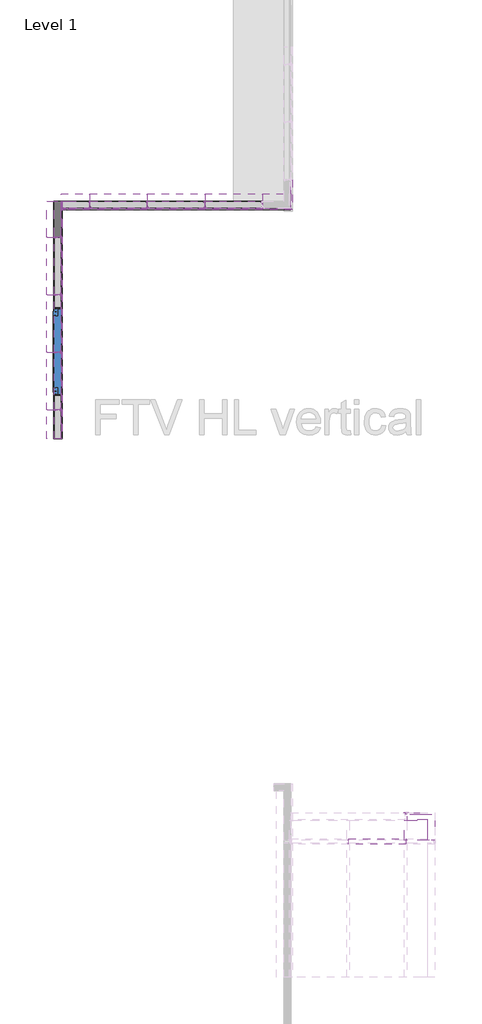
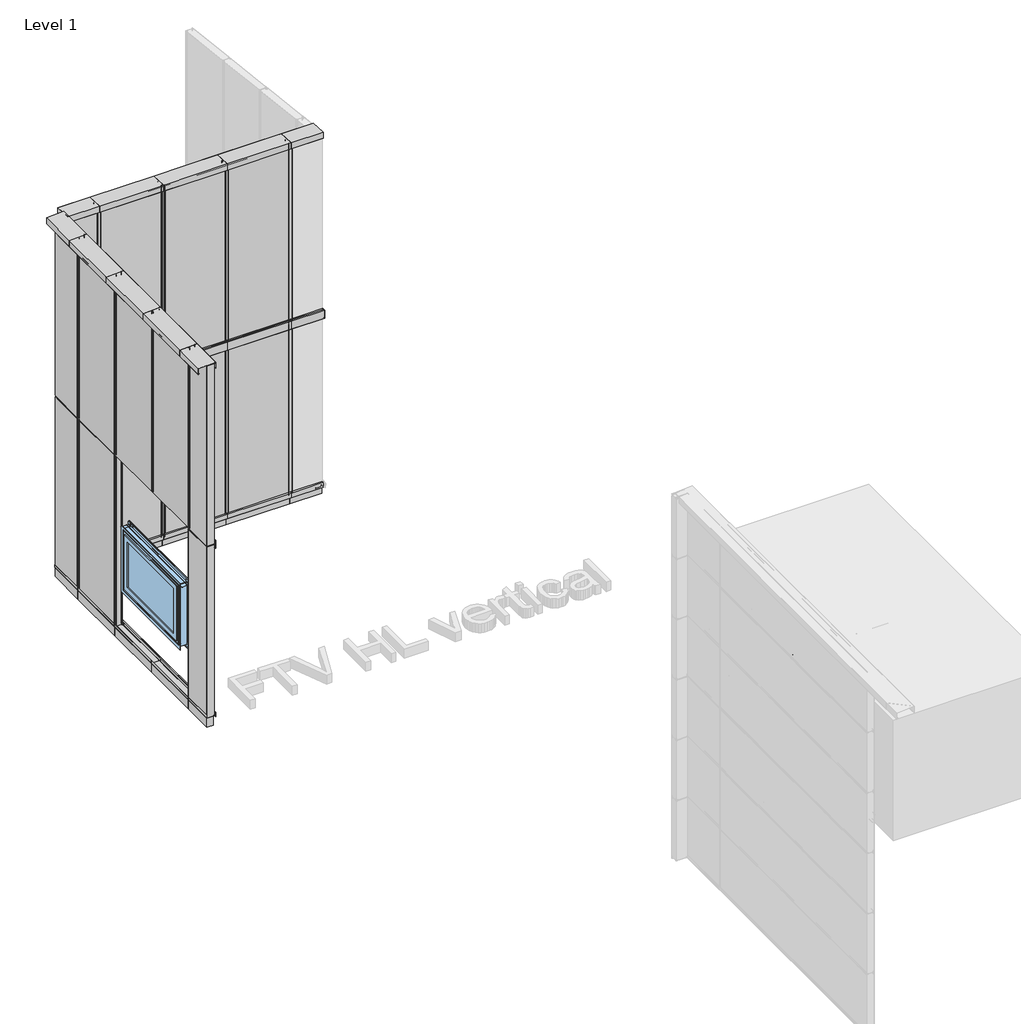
# One storey, part 2 of 12: 35 members, 19 plates, 1 window.
"""IFC4 building model written with IfcOpenShell, lengths in millimetres."""

from ifc_helpers import new_model, si_unit, frame, origin, place, context, project, spatial, polyline, outline, extrude, faceted_brep, transform, mapped, element, save
from components import rectangular_mullion_43938598, rectangular_mullion_ab42efd6, rectangular_mullion_1d9e89ed, rectangular_mullion_88eb2caa, rectangular_mullion_bb89daf4, rectangular_mullion_a47ee03b, rectangular_mullion_25a7a2da, rectangular_mullion_df936c78, rectangular_mullion_8045d9e8, rectangular_mullion_33361686, rectangular_mullion_f78c5b19, rectangular_mullion_6127d420, rectangular_mullion_b5ec325a, rectangular_mullion_2001938f, rectangular_mullion_f6077a82, rectangular_mullion_68cac8b4, rectangular_mullion_4b7977a3, rectangular_mullion_5a0b59be, plate_120_ral9006_ral9002_2db9554e, plate_120_ral9006_ral9002_1ee364b3, plate_120_ral9006_ral9002_da41a48f, plate_120_ral9006_ral9002_23705594, plate_120_ral9006_ral9002_6ff576de, plate_120_ral9006_ral9002_c20b192a, plate_120_ral9006_ral9002_8b50576c, plate_120_ral9006_ral9002_540726e8, plate_120_ral9006_ral9002_7ea08fae, plate_120_ral9006_ral9002_39290fb2, tr_empty_empty_7661b975

model = new_model("IFC4")

# Units and contexts
model_context = context("Model", 3, world=origin())
ifc_project = project(units=[si_unit("LENGTHUNIT", "METRE", prefix="MILLI")], contexts=[model_context])

# Site, building, storey
site = spatial("IfcSite", under=ifc_project)
building = spatial("IfcBuilding", under=site)
storey = spatial("IfcBuildingStorey", under=building, Name="Level 1", Elevation=0.0)

# Members
placement = place(None, origin())
rectangular_mullion_shape = rectangular_mullion_43938598(model_context)
element("IfcMember", 1, ObjectType="Rectangular Mullion : TI-V-01_02_Joint flashing", at=placement, inside=storey, context=model_context, shape_type="MappedRepresentation", body=[
    mapped(rectangular_mullion_shape, transform((-5494.115506, 3969.6069121, 3000.0), x_axis=(0.0, 0.0, 1.0), y_axis=(0.0, 1.0, 0.0), z_axis=(-1.0, 0.0, 0.0))),
])
element("IfcMember", 2, ObjectType="Rectangular Mullion : TI-V-01_02_Joint flashing", at=placement, inside=storey, context=model_context, shape_type="MappedRepresentation", body=[
    mapped(rectangular_mullion_shape, transform((-6494.115506, 3969.6069121, 3000.0), x_axis=(0.0, 0.0, 1.0), y_axis=(0.0, 1.0, 0.0), z_axis=(-1.0, 0.0, 0.0))),
])
element("IfcMember", 3, ObjectType="Rectangular Mullion : TI-V-01_02_Joint flashing", at=placement, inside=storey, context=model_context, shape_type="MappedRepresentation", body=[
    mapped(rectangular_mullion_shape, transform((-7494.115506, 3969.6069121, 3000.0), x_axis=(0.0, 0.0, 1.0), y_axis=(0.0, 1.0, 0.0), z_axis=(-1.0, 0.0, 0.0))),
])
element("IfcMember", 4, ObjectType="Rectangular Mullion : TI-V-01_02_Joint flashing", at=placement, inside=storey, context=model_context, shape_type="MappedRepresentation", body=[
    mapped(rectangular_mullion_shape, transform((-7994.1155057, 2469.6069124, 3000.0), x_axis=(0.0, 0.0, 1.0), y_axis=(-1.0, 0.0, 0.0), z_axis=(0.0, -1.0, 0.0))),
])
element("IfcMember", 5, ObjectType="Rectangular Mullion : TI-V-01_02_Joint flashing", at=placement, inside=storey, context=model_context, shape_type="MappedRepresentation", body=[
    mapped(rectangular_mullion_shape, transform((-7994.1155057, 1469.6069124, 3000.0), x_axis=(0.0, 0.0, 1.0), y_axis=(-1.0, 0.0, 0.0), z_axis=(0.0, -1.0, 0.0))),
])
element("IfcMember", 6, ObjectType="Rectangular Mullion : TI-V-01_02_Joint flashing", at=placement, inside=storey, context=model_context, shape_type="MappedRepresentation", body=[
    mapped(rectangular_mullion_shape, transform((-7994.1155057, 469.6069124, 3000.0), x_axis=(0.0, 0.0, 1.0), y_axis=(-1.0, 0.0, 0.0), z_axis=(0.0, -1.0, 0.0))),
])
rectangular_mullion_2_shape = rectangular_mullion_ab42efd6(model_context)
element("IfcMember", 7, ObjectType="Rectangular Mullion : TI-V-01_02_Joint flashing", at=placement, inside=storey, context=model_context, shape_type="MappedRepresentation", body=[
    mapped(rectangular_mullion_2_shape, transform((-7994.1155057, 3969.6069121, 3000.0), x_axis=(0.0, 0.0, 1.0), y_axis=(0.0, 1.0, 0.0), z_axis=(-1.0, 0.0, 0.0))),
])
rectangular_mullion_3_shape = rectangular_mullion_1d9e89ed(model_context)
element("IfcMember", 8, ObjectType="Rectangular Mullion : TI-V-01_02_Joint flashing", at=placement, inside=storey, context=model_context, shape_type="MappedRepresentation", body=[
    mapped(rectangular_mullion_3_shape, transform((-7994.1155057, 3469.6069124, 3000.0), x_axis=(0.0, 0.0, 1.0), y_axis=(-1.0, 0.0, 0.0), z_axis=(0.0, -1.0, 0.0))),
])
rectangular_mullion_4_shape = rectangular_mullion_88eb2caa(model_context)
element("IfcMember", 9, ObjectType="Rectangular Mullion : TI-V-01_02_Joint flashing", at=placement, inside=storey, context=model_context, shape_type="MappedRepresentation", body=[
    mapped(rectangular_mullion_4_shape, transform((-7994.1155057, -30.3930879, 3000.0), x_axis=(0.0, 0.0, 1.0), y_axis=(-1.0, 0.0, 0.0), z_axis=(0.0, -1.0, 0.0))),
])
rectangular_mullion_5_shape = rectangular_mullion_bb89daf4(model_context)
element("IfcMember", 10, ObjectType="Rectangular Mullion : TE-H-01_03_Joint HF102", at=placement, inside=storey, context=model_context, shape_type="MappedRepresentation", body=[
    mapped(rectangular_mullion_5_shape, transform((-1994.1155057, -6530.3930879, 4150.0), x_axis=(1.0, 0.0, 0.0), y_axis=(0.0, 1.0, 0.0), z_axis=(0.0, 0.0, 1.0))),
])
rectangular_mullion_6_shape = rectangular_mullion_a47ee03b(model_context)
element("IfcMember", 11, ObjectType="Rectangular Mullion : TE-H-01_03_Joint HF102", at=placement, inside=storey, context=model_context, shape_type="MappedRepresentation", body=[
    mapped(rectangular_mullion_6_shape, transform((-1994.1155057, -7030.3930879, 3650.0), x_axis=(0.0, -1.0, 0.0), y_axis=(0.0, 0.0, -1.0), z_axis=(1.0, 0.0, 0.0))),
])
rectangular_mullion_7_shape = rectangular_mullion_25a7a2da(model_context)
element("IfcMember", 12, ObjectType="Rectangular Mullion : TI-V-03_01_Top parapet", at=placement, inside=storey, context=model_context, shape_type="MappedRepresentation", body=[
    mapped(rectangular_mullion_7_shape, transform((-7994.1155057, 3969.6069121, 6000.0), x_axis=(0.0, 0.0, 1.0), y_axis=(0.0, 1.0, 0.0), z_axis=(-1.0, 0.0, 0.0))),
])
rectangular_mullion_8_shape = rectangular_mullion_df936c78(model_context)
element("IfcMember", 13, ObjectType="Rectangular Mullion : TI-V-03_01_Top parapet", at=placement, inside=storey, context=model_context, shape_type="MappedRepresentation", body=[
    mapped(rectangular_mullion_8_shape, transform((-4494.115506, 3969.6069121, 6000.0), x_axis=(0.0, 0.0, 1.0), y_axis=(0.0, 1.0, 0.0), z_axis=(-1.0, 0.0, 0.0))),
])
rectangular_mullion_9_shape = rectangular_mullion_8045d9e8(model_context)
element("IfcMember", 14, ObjectType="Rectangular Mullion : TI-V-03_01_Top parapet", at=placement, inside=storey, context=model_context, shape_type="MappedRepresentation", body=[
    mapped(rectangular_mullion_9_shape, transform((-5494.115506, 3969.6069121, 6000.0), x_axis=(0.0, 0.0, 1.0), y_axis=(0.0, 1.0, 0.0), z_axis=(-1.0, 0.0, 0.0))),
])
element("IfcMember", 15, ObjectType="Rectangular Mullion : TI-V-03_01_Top parapet", at=placement, inside=storey, context=model_context, shape_type="MappedRepresentation", body=[
    mapped(rectangular_mullion_9_shape, transform((-6494.115506, 3969.6069121, 6000.0), x_axis=(0.0, 0.0, 1.0), y_axis=(0.0, 1.0, 0.0), z_axis=(-1.0, 0.0, 0.0))),
])
element("IfcMember", 16, ObjectType="Rectangular Mullion : TI-V-03_01_Top parapet", at=placement, inside=storey, context=model_context, shape_type="MappedRepresentation", body=[
    mapped(rectangular_mullion_9_shape, transform((-7494.115506, 3969.6069121, 6000.0), x_axis=(0.0, 0.0, 1.0), y_axis=(0.0, 1.0, 0.0), z_axis=(-1.0, 0.0, 0.0))),
])
element("IfcMember", 17, ObjectType="Rectangular Mullion : TI-V-03_01_Top parapet", at=placement, inside=storey, context=model_context, shape_type="MappedRepresentation", body=[
    mapped(rectangular_mullion_9_shape, transform((-7994.1155057, 2469.6069124, 6000.0), x_axis=(0.0, 0.0, 1.0), y_axis=(-1.0, 0.0, 0.0), z_axis=(0.0, -1.0, 0.0))),
])
element("IfcMember", 18, ObjectType="Rectangular Mullion : TI-V-03_01_Top parapet", at=placement, inside=storey, context=model_context, shape_type="MappedRepresentation", body=[
    mapped(rectangular_mullion_9_shape, transform((-7994.1155057, 1469.6069124, 6000.0), x_axis=(0.0, 0.0, 1.0), y_axis=(-1.0, 0.0, 0.0), z_axis=(0.0, -1.0, 0.0))),
])
element("IfcMember", 19, ObjectType="Rectangular Mullion : TI-V-03_01_Top parapet", at=placement, inside=storey, context=model_context, shape_type="MappedRepresentation", body=[
    mapped(rectangular_mullion_9_shape, transform((-7994.1155057, 469.6069124, 6000.0), x_axis=(0.0, 0.0, 1.0), y_axis=(-1.0, 0.0, 0.0), z_axis=(0.0, -1.0, 0.0))),
])
rectangular_mullion_10_shape = rectangular_mullion_33361686(model_context)
element("IfcMember", 20, ObjectType="Rectangular Mullion : TI-V-02_01_Base detail i", at=placement, inside=storey, context=model_context, shape_type="MappedRepresentation", body=[
    mapped(rectangular_mullion_10_shape, transform((-3994.1155057, 3969.6069121, 0.0), x_axis=(0.0, 0.0, -1.0), y_axis=(0.0, 1.0, 0.0), z_axis=(1.0, 0.0, 0.0))),
])
rectangular_mullion_11_shape = rectangular_mullion_f78c5b19(model_context)
element("IfcMember", 21, ObjectType="Rectangular Mullion : TI-V-02_01_Base detail i", at=placement, inside=storey, context=model_context, shape_type="MappedRepresentation", body=[
    mapped(rectangular_mullion_11_shape, transform((-4494.115506, 3969.6069121, 0.0), x_axis=(0.0, 0.0, -1.0), y_axis=(0.0, 1.0, 0.0), z_axis=(1.0, 0.0, 0.0))),
])
element("IfcMember", 22, ObjectType="Rectangular Mullion : TI-V-02_01_Base detail i", at=placement, inside=storey, context=model_context, shape_type="MappedRepresentation", body=[
    mapped(rectangular_mullion_11_shape, transform((-5494.115506, 3969.6069121, 0.0), x_axis=(0.0, 0.0, -1.0), y_axis=(0.0, 1.0, 0.0), z_axis=(1.0, 0.0, 0.0))),
])
element("IfcMember", 23, ObjectType="Rectangular Mullion : TI-V-02_01_Base detail i", at=placement, inside=storey, context=model_context, shape_type="MappedRepresentation", body=[
    mapped(rectangular_mullion_11_shape, transform((-6494.115506, 3969.6069121, 0.0), x_axis=(0.0, 0.0, -1.0), y_axis=(0.0, 1.0, 0.0), z_axis=(1.0, 0.0, 0.0))),
])
element("IfcMember", 24, ObjectType="Rectangular Mullion : TI-V-02_01_Base detail i", at=placement, inside=storey, context=model_context, shape_type="MappedRepresentation", body=[
    mapped(rectangular_mullion_11_shape, transform((-7994.1155057, 3469.6069124, 0.0), x_axis=(0.0, 0.0, -1.0), y_axis=(-1.0, 0.0, 0.0), z_axis=(0.0, 1.0, 0.0))),
])
element("IfcMember", 25, ObjectType="Rectangular Mullion : TI-V-02_01_Base detail i", at=placement, inside=storey, context=model_context, shape_type="MappedRepresentation", body=[
    mapped(rectangular_mullion_11_shape, transform((-7994.1155057, 2469.6069124, 0.0), x_axis=(0.0, 0.0, -1.0), y_axis=(-1.0, 0.0, 0.0), z_axis=(0.0, 1.0, 0.0))),
])
element("IfcMember", 26, ObjectType="Rectangular Mullion : TI-V-02_01_Base detail i", at=placement, inside=storey, context=model_context, shape_type="MappedRepresentation", body=[
    mapped(rectangular_mullion_11_shape, transform((-7994.1155057, 1469.6069124, 0.0), x_axis=(0.0, 0.0, -1.0), y_axis=(-1.0, 0.0, 0.0), z_axis=(0.0, 1.0, 0.0))),
])
rectangular_mullion_12_shape = rectangular_mullion_6127d420(model_context)
element("IfcMember", 27, ObjectType="Rectangular Mullion : TI-V-02_01_Base detail i", at=placement, inside=storey, context=model_context, shape_type="MappedRepresentation", body=[
    mapped(rectangular_mullion_12_shape, transform((-7494.115506, 3969.6069121, 0.0), x_axis=(0.0, 0.0, -1.0), y_axis=(0.0, 1.0, 0.0), z_axis=(1.0, 0.0, 0.0))),
])
element("IfcMember", 28, ObjectType="Rectangular Mullion : TI-V-03_01_Top parapet", at=placement, inside=storey, context=model_context, shape_type="MappedRepresentation", body=[
    mapped(rectangular_mullion_8_shape, transform((-7994.1155057, -30.3930879, 6000.0), x_axis=(0.0, 0.0, 1.0), y_axis=(-1.0, 0.0, 0.0), z_axis=(0.0, -1.0, 0.0))),
])
rectangular_mullion_13_shape = rectangular_mullion_b5ec325a(model_context)
element("IfcMember", 29, ObjectType="Rectangular Mullion : TI-V-03_01_Top parapet", at=placement, inside=storey, context=model_context, shape_type="MappedRepresentation", body=[
    mapped(rectangular_mullion_13_shape, transform((-7994.1155057, 3469.6069124, 6000.0), x_axis=(0.0, 0.0, 1.0), y_axis=(-1.0, 0.0, 0.0), z_axis=(0.0, -1.0, 0.0))),
])
rectangular_mullion_14_shape = rectangular_mullion_2001938f(model_context)
element("IfcMember", 30, ObjectType="Rectangular Mullion : TI-V-02_01_Base detail i", at=placement, inside=storey, context=model_context, shape_type="MappedRepresentation", body=[
    mapped(rectangular_mullion_14_shape, transform((-7994.1155057, 4089.6069121, 0.0), x_axis=(0.0, 0.0, -1.0), y_axis=(-1.0, 0.0, 0.0), z_axis=(0.0, 1.0, 0.0))),
])
element("IfcMember", 31, ObjectType="Rectangular Mullion : TI-V-02_01_Base detail i", at=placement, inside=storey, context=model_context, shape_type="MappedRepresentation", body=[
    mapped(rectangular_mullion_10_shape, transform((-7994.1155057, 469.6069124, 0.0), x_axis=(0.0, 0.0, -1.0), y_axis=(-1.0, 0.0, 0.0), z_axis=(0.0, 1.0, 0.0))),
])
rectangular_mullion_15_shape = rectangular_mullion_f6077a82(model_context)
element("IfcMember", 32, ObjectType="Rectangular Mullion : TI-V-05_01_Internal corner i L", at=placement, inside=storey, context=model_context, shape_type="MappedRepresentation", body=[
    mapped(rectangular_mullion_15_shape, transform((-7994.1155057, 3969.6069121, 206.6383068), x_axis=(-1.0, 0.0, 0.0), y_axis=(0.0, 1.0, 0.0), z_axis=(0.0, 0.0, -1.0))),
])
rectangular_mullion_16_shape = rectangular_mullion_68cac8b4(model_context)
element("IfcMember", 33, ObjectType="Rectangular Mullion : TI-V-05_01_Internal corner i L", at=placement, inside=storey, context=model_context, shape_type="MappedRepresentation", body=[
    mapped(rectangular_mullion_16_shape, transform((-7994.1155057, 3969.6069121, 3070.1186468), x_axis=(-1.0, 0.0, 0.0), y_axis=(0.0, 1.0, 0.0), z_axis=(0.0, 0.0, -1.0))),
])
rectangular_mullion_17_shape = rectangular_mullion_4b7977a3(model_context)
element("IfcMember", 34, ObjectType="Rectangular Mullion : TI-V-01_02_Joint flashing", at=placement, inside=storey, context=model_context, shape_type="MappedRepresentation", body=[
    mapped(rectangular_mullion_17_shape, transform((-3994.1155057, 3969.6069121, 3000.0), x_axis=(0.0, 0.0, 1.0), y_axis=(-1.0, 0.0, 0.0), z_axis=(0.0, -1.0, 0.0))),
])
rectangular_mullion_18_shape = rectangular_mullion_5a0b59be(model_context)
element("IfcMember", 35, ObjectType="Rectangular Mullion : TI-V-01_02_Joint flashing", at=placement, inside=storey, context=model_context, shape_type="MappedRepresentation", body=[
    mapped(rectangular_mullion_18_shape, transform((-4494.115506, 3969.6069121, 3000.0), x_axis=(0.0, 0.0, 1.0), y_axis=(0.0, 1.0, 0.0), z_axis=(-1.0, 0.0, 0.0))),
])

# Plates
plate_120_ral9006_ral9002_shape = plate_120_ral9006_ral9002_2db9554e(model_context)
element("IfcPlate", 36, ObjectType="TR_C_H_FHL_Panel_cut_GROOVE : 120/RAL9006/RAL9002", at=placement, inside=storey, context=model_context, shape_type="MappedRepresentation", body=[
    mapped(plate_120_ral9006_ral9002_shape, transform((-1994.1155057, -6770.3930879, 3650.0), x_axis=(0.0, -1.0, 0.0), y_axis=(0.0, 0.0, -1.0), z_axis=(1.0, 0.0, 0.0))),
])
plate_120_ral9006_ral9002_2_shape = plate_120_ral9006_ral9002_1ee364b3(model_context)
element("IfcPlate", 37, ObjectType="TR_C_V_FHL_Panel : 120/RAL9006/RAL9002", at=placement, inside=storey, context=model_context, shape_type="MappedRepresentation", body=[
    mapped(plate_120_ral9006_ral9002_2_shape, transform((-4994.115506, 3969.6069121, 150.0), x_axis=(-1.0, 0.0, 0.0), y_axis=(0.0, -1.0, 0.0), z_axis=(0.0, 0.0, 1.0))),
])
element("IfcPlate", 38, ObjectType="TR_C_V_FHL_Panel : 120/RAL9006/RAL9002", at=placement, inside=storey, context=model_context, shape_type="MappedRepresentation", body=[
    mapped(plate_120_ral9006_ral9002_2_shape, transform((-5994.115506, 3969.6069121, 150.0), x_axis=(-1.0, 0.0, 0.0), y_axis=(0.0, -1.0, 0.0), z_axis=(0.0, 0.0, 1.0))),
])
element("IfcPlate", 39, ObjectType="TR_C_V_FHL_Panel : 120/RAL9006/RAL9002", at=placement, inside=storey, context=model_context, shape_type="MappedRepresentation", body=[
    mapped(plate_120_ral9006_ral9002_2_shape, transform((-6994.115506, 3969.6069121, 150.0), x_axis=(-1.0, 0.0, 0.0), y_axis=(0.0, -1.0, 0.0), z_axis=(0.0, 0.0, 1.0))),
])
element("IfcPlate", 40, ObjectType="TR_C_V_FHL_Panel : 120/RAL9006/RAL9002", at=placement, inside=storey, context=model_context, shape_type="MappedRepresentation", body=[
    mapped(plate_120_ral9006_ral9002_2_shape, transform((-7994.1155057, 2969.6069124, 150.0), x_axis=(0.0, -1.0, 0.0), y_axis=(1.0, 0.0, 0.0), z_axis=(0.0, 0.0, 1.0))),
])
plate_120_ral9006_ral9002_3_shape = plate_120_ral9006_ral9002_da41a48f(model_context)
element("IfcPlate", 41, ObjectType="TR_C_V_FHL_Panel : 120/RAL9006/RAL9002", at=placement, inside=storey, context=model_context, shape_type="MappedRepresentation", body=[
    mapped(plate_120_ral9006_ral9002_3_shape, transform((-4994.115506, 3969.6069121, 3000.0), x_axis=(-1.0, 0.0, 0.0), y_axis=(0.0, -1.0, 0.0), z_axis=(0.0, 0.0, 1.0))),
])
element("IfcPlate", 42, ObjectType="TR_C_V_FHL_Panel : 120/RAL9006/RAL9002", at=placement, inside=storey, context=model_context, shape_type="MappedRepresentation", body=[
    mapped(plate_120_ral9006_ral9002_3_shape, transform((-5994.115506, 3969.6069121, 3000.0), x_axis=(-1.0, 0.0, 0.0), y_axis=(0.0, -1.0, 0.0), z_axis=(0.0, 0.0, 1.0))),
])
element("IfcPlate", 43, ObjectType="TR_C_V_FHL_Panel : 120/RAL9006/RAL9002", at=placement, inside=storey, context=model_context, shape_type="MappedRepresentation", body=[
    mapped(plate_120_ral9006_ral9002_3_shape, transform((-6994.115506, 3969.6069121, 3000.0), x_axis=(-1.0, 0.0, 0.0), y_axis=(0.0, -1.0, 0.0), z_axis=(0.0, 0.0, 1.0))),
])
element("IfcPlate", 44, ObjectType="TR_C_V_FHL_Panel : 120/RAL9006/RAL9002", at=placement, inside=storey, context=model_context, shape_type="MappedRepresentation", body=[
    mapped(plate_120_ral9006_ral9002_3_shape, transform((-7994.1155057, 2969.6069124, 3000.0), x_axis=(0.0, -1.0, 0.0), y_axis=(1.0, 0.0, 0.0), z_axis=(0.0, 0.0, 1.0))),
])
element("IfcPlate", 45, ObjectType="TR_C_V_FHL_Panel : 120/RAL9006/RAL9002", at=placement, inside=storey, context=model_context, shape_type="MappedRepresentation", body=[
    mapped(plate_120_ral9006_ral9002_3_shape, transform((-7994.1155057, 1969.6069124, 3000.0), x_axis=(0.0, -1.0, 0.0), y_axis=(1.0, 0.0, 0.0), z_axis=(0.0, 0.0, 1.0))),
])
element("IfcPlate", 46, ObjectType="TR_C_V_FHL_Panel : 120/RAL9006/RAL9002", at=placement, inside=storey, context=model_context, shape_type="MappedRepresentation", body=[
    mapped(plate_120_ral9006_ral9002_3_shape, transform((-7994.1155057, 969.6069124, 3000.0), x_axis=(0.0, -1.0, 0.0), y_axis=(1.0, 0.0, 0.0), z_axis=(0.0, 0.0, 1.0))),
])
plate_120_ral9006_ral9002_4_shape = plate_120_ral9006_ral9002_23705594(model_context)
element("IfcPlate", 47, ObjectType="TR_C_V_FHL_Panel_cut_GROOVE : 120/RAL9006/RAL9002", at=placement, inside=storey, context=model_context, shape_type="MappedRepresentation", body=[
    mapped(plate_120_ral9006_ral9002_4_shape, transform((-7994.1155057, 219.6069123, 150.0), x_axis=(0.0, -1.0, 0.0), y_axis=(1.0, 0.0, 0.0), z_axis=(0.0, 0.0, 1.0))),
])
plate_120_ral9006_ral9002_5_shape = plate_120_ral9006_ral9002_6ff576de(model_context)
element("IfcPlate", 48, ObjectType="TR_C_V_FHL_Panel_cut_GROOVE : 120/RAL9006/RAL9002", at=placement, inside=storey, context=model_context, shape_type="MappedRepresentation", body=[
    mapped(plate_120_ral9006_ral9002_5_shape, transform((-7734.5155058, 3969.6069121, 150.0), x_axis=(-1.0, 0.0, 0.0), y_axis=(0.0, -1.0, 0.0), z_axis=(0.0, 0.0, 1.0))),
])
plate_120_ral9006_ral9002_6_shape = plate_120_ral9006_ral9002_c20b192a(model_context)
element("IfcPlate", 49, ObjectType="TR_C_V_FHL_Panel_cut_GROOVE : 120/RAL9006/RAL9002", at=placement, inside=storey, context=model_context, shape_type="MappedRepresentation", body=[
    mapped(plate_120_ral9006_ral9002_6_shape, transform((-7734.5155058, 3969.6069121, 3000.0), x_axis=(-1.0, 0.0, 0.0), y_axis=(0.0, -1.0, 0.0), z_axis=(0.0, 0.0, 1.0))),
])
plate_120_ral9006_ral9002_7_shape = plate_120_ral9006_ral9002_8b50576c(model_context)
element("IfcPlate", 50, ObjectType="TR_C_V_FHL_Panel_cut_GROOVE : 120/RAL9006/RAL9002", at=placement, inside=storey, context=model_context, shape_type="MappedRepresentation", body=[
    mapped(plate_120_ral9006_ral9002_7_shape, transform((-7994.1155057, 219.6069123, 3000.0), x_axis=(0.0, -1.0, 0.0), y_axis=(1.0, 0.0, 0.0), z_axis=(0.0, 0.0, 1.0))),
])
plate_120_ral9006_ral9002_8_shape = plate_120_ral9006_ral9002_540726e8(model_context)
element("IfcPlate", 51, ObjectType="TR_C_V_FHL_Panel_cut_TONGUE : 120/RAL9006/RAL9002", at=placement, inside=storey, context=model_context, shape_type="MappedRepresentation", body=[
    mapped(plate_120_ral9006_ral9002_8_shape, transform((-7994.1155057, 3779.6069123, 150.0), x_axis=(0.0, -1.0, 0.0), y_axis=(1.0, 0.0, 0.0), z_axis=(0.0, 0.0, 1.0))),
])
plate_120_ral9006_ral9002_9_shape = plate_120_ral9006_ral9002_7ea08fae(model_context)
element("IfcPlate", 52, ObjectType="TR_C_V_FHL_Panel_cut_TONGUE : 120/RAL9006/RAL9002", at=placement, inside=storey, context=model_context, shape_type="MappedRepresentation", body=[
    mapped(plate_120_ral9006_ral9002_9_shape, transform((-7994.1155057, 3779.6069123, 3000.0), x_axis=(0.0, -1.0, 0.0), y_axis=(1.0, 0.0, 0.0), z_axis=(0.0, 0.0, 1.0))),
])
plate_120_ral9006_ral9002_10_shape = plate_120_ral9006_ral9002_39290fb2(model_context)
element("IfcPlate", 53, ObjectType="TR_C_H_FHL_Corner_Tr_B_cut_TONGUE : 120/RAL9006/RAL9002", at=placement, inside=storey, context=model_context, shape_type="MappedRepresentation", body=[
    mapped(plate_120_ral9006_ral9002_10_shape, transform((-1494.1155057, -6770.3930879, 3650.0), x_axis=(0.0, -1.0, 0.0), y_axis=(1.0, 0.0, 0.0), z_axis=(0.0, 0.0, 1.0))),
])
tr_empty_empty_shape = tr_empty_empty_7661b975(model_context)
element("IfcPlate", 54, ObjectType="TR_EMPTY : EMPTY", at=placement, inside=storey, context=model_context, shape_type="MappedRepresentation", body=[
    mapped(tr_empty_empty_shape, transform((-1734.1155057, -6530.3930879, 3650.0), x_axis=(1.0, 0.0, 0.0), y_axis=(0.0, 1.0, 0.0), z_axis=(0.0, 0.0, 1.0))),
])

# Window
element("IfcWindow", 55, ObjectType="TE-V-06_01_Window cut i : Window", at=placement, inside=storey, context=model_context, shape_type="SolidModel", body=[
    faceted_brep([(-8071.1155057, 2145.8090139, 1816.2021017), (-8054.1155057, 2145.8090139, 1816.2021017), (-8054.1155057, 2145.8090139, 983.7978983), (-8071.1155057, 2145.8090139, 983.7978983), (-8054.1155057, 2154.1069121, 1824.5), (-8071.1155057, 2154.1069121, 1824.5), (-8071.1155057, 2154.1069121, 975.5), (-8054.1155057, 2154.1069121, 975.5), (-8057.9155057, 2222.1069121, 1892.5), (-8054.1155057, 2222.1069121, 1892.5), (-8054.1155057, 2222.1069121, 907.5), (-8057.9155057, 2222.1069121, 907.5), (-8061.9155057, 2214.1069121, 1884.5), (-8057.9155057, 2214.1069121, 1884.5), (-8057.9155057, 2214.1069121, 915.5), (-8061.9155057, 2214.1069121, 915.5), (-8066.2155057, 2222.1069121, 1892.5), (-8061.9155057, 2222.1069121, 1892.5), (-8061.9155057, 2222.1069121, 907.5), (-8066.2155057, 2222.1069121, 907.5), (-8102.0155057, 2214.1069121, 1884.5), (-8066.2155057, 2214.1069121, 1884.5), (-8066.2155057, 2214.1069121, 915.5), (-8102.0155057, 2214.1069121, 915.5), (-8106.3155057, 2222.1069121, 1892.5), (-8102.0155057, 2222.1069121, 1892.5), (-8102.0155057, 2222.1069121, 907.5), (-8106.3155057, 2222.1069121, 907.5), (-8110.3155057, 2214.1069121, 1884.5), (-8106.3155057, 2214.1069121, 1884.5), (-8106.3155057, 2214.1069121, 915.5), (-8110.3155057, 2214.1069121, 915.5), (-8114.1155057, 2222.1069121, 1892.5), (-8110.3155057, 2222.1069121, 1892.5), (-8110.3155057, 2222.1069121, 907.5), (-8114.1155057, 2222.1069121, 907.5), (-8102.9155057, 2174.1069121, 1844.5), (-8114.1155057, 2174.1069121, 1844.5), (-8114.1155057, 2174.1069121, 955.5), (-8102.9155057, 2174.1069121, 955.5), (-8066.6155057, 2179.9196805, 1850.3127684), (-8102.9155057, 2179.9196805, 1850.3127684), (-8102.9155057, 2179.9196805, 949.6872316), (-8066.6155057, 2179.9196805, 949.6872316), (-8118.6155057, 2162.1069121, 1832.5), (-8066.6155057, 2162.1069121, 1832.5), (-8066.6155057, 2162.1069121, 967.5), (-8118.6155057, 2162.1069121, 967.5), (-8114.8743992, 2179.9196805, 1850.3127684), (-8118.6155057, 2179.9196805, 1850.3127684), (-8118.6155057, 2179.9196805, 949.6872316), (-8114.8743992, 2179.9196805, 949.6872316), (-8128.6155057, 2182.1069121, 1852.5), (-8114.8743992, 2182.1069121, 1852.5), (-8114.8743992, 2182.1069121, 947.5), (-8128.6155057, 2182.1069121, 947.5), (-8109.1153764, 2102.1069121, 1772.5), (-8128.6155057, 2102.1069121, 1772.5), (-8128.6155057, 2102.1069121, 1027.5), (-8109.1153764, 2102.1069121, 1027.5), (-8089.1153853, 2117.0921681, 1787.485256), (-8109.1153764, 2117.0921681, 1787.485256), (-8109.1153764, 2117.0921681, 1012.514744), (-8089.1153853, 2117.0921681, 1012.514744), (-8054.1155057, 2102.1069121, 1772.5), (-8089.1153853, 2102.1069121, 1772.5), (-8089.1153853, 2102.1069121, 1027.5), (-8054.1155057, 2102.1069121, 1027.5), (-8054.1155057, 813.4048104, 983.7978983), (-8071.1155057, 813.4048104, 983.7978983), (-8071.1155057, 805.1069121, 975.5), (-8054.1155057, 805.1069121, 975.5), (-8054.1155057, 737.1069121, 907.5), (-8057.9155057, 737.1069121, 907.5), (-8057.9155057, 745.1069121, 915.5), (-8061.9155057, 745.1069121, 915.5), (-8061.9155057, 737.1069121, 907.5), (-8066.2155057, 737.1069121, 907.5), (-8066.2155057, 745.1069121, 915.5), (-8102.0155057, 745.1069121, 915.5), (-8102.0155057, 737.1069121, 907.5), (-8106.3155057, 737.1069121, 907.5), (-8106.3155057, 745.1069121, 915.5), (-8110.3155057, 745.1069121, 915.5), (-8110.3155057, 737.1069121, 907.5), (-8114.1155057, 737.1069121, 907.5), (-8114.1155057, 785.1069121, 955.5), (-8102.9155057, 785.1069121, 955.5), (-8102.9155057, 779.2941438, 949.6872316), (-8066.6155057, 779.2941438, 949.6872316), (-8066.6155057, 797.1069121, 967.5), (-8118.6155057, 797.1069121, 967.5), (-8118.6155057, 779.2941438, 949.6872316), (-8114.8743992, 779.2941438, 949.6872316), (-8114.8743992, 777.1069121, 947.5), (-8128.6155057, 777.1069121, 947.5), (-8128.6155057, 857.1069121, 1027.5), (-8109.1153764, 857.1069121, 1027.5), (-8109.1153764, 842.1216561, 1012.514744), (-8089.1153853, 842.1216561, 1012.514744), (-8089.1153853, 857.1069121, 1027.5), (-8054.1155057, 857.1069121, 1027.5), (-8054.1155057, 813.4048104, 1816.2021017), (-8071.1155057, 813.4048104, 1816.2021017), (-8071.1155057, 805.1069121, 1824.5), (-8054.1155057, 805.1069121, 1824.5), (-8054.1155057, 737.1069121, 1892.5), (-8057.9155057, 737.1069121, 1892.5), (-8057.9155057, 745.1069121, 1884.5), (-8061.9155057, 745.1069121, 1884.5), (-8061.9155057, 737.1069121, 1892.5), (-8066.2155057, 737.1069121, 1892.5), (-8066.2155057, 745.1069121, 1884.5), (-8102.0155057, 745.1069121, 1884.5), (-8102.0155057, 737.1069121, 1892.5), (-8106.3155057, 737.1069121, 1892.5), (-8106.3155057, 745.1069121, 1884.5), (-8110.3155057, 745.1069121, 1884.5), (-8110.3155057, 737.1069121, 1892.5), (-8114.1155057, 737.1069121, 1892.5), (-8114.1155057, 785.1069121, 1844.5), (-8102.9155057, 785.1069121, 1844.5), (-8102.9155057, 779.2941438, 1850.3127684), (-8066.6155057, 779.2941438, 1850.3127684), (-8066.6155057, 797.1069121, 1832.5), (-8118.6155057, 797.1069121, 1832.5), (-8118.6155057, 779.2941438, 1850.3127684), (-8114.8743992, 779.2941438, 1850.3127684), (-8114.8743992, 777.1069121, 1852.5), (-8128.6155057, 777.1069121, 1852.5), (-8128.6155057, 857.1069121, 1772.5), (-8109.1153764, 857.1069121, 1772.5), (-8109.1153764, 842.1216561, 1787.485256), (-8089.1153853, 842.1216561, 1787.485256), (-8089.1153853, 857.1069121, 1772.5), (-8054.1155057, 857.1069121, 1772.5)], [[[0, 1, 2, 3]], [[4, 5, 6, 7]], [[8, 9, 10, 11]], [[12, 13, 14, 15]], [[16, 17, 18, 19]], [[20, 21, 22, 23]], [[24, 25, 26, 27]], [[28, 29, 30, 31]], [[32, 33, 34, 35]], [[36, 37, 38, 39]], [[40, 41, 42, 43]], [[44, 45, 46, 47]], [[48, 49, 50, 51]], [[52, 53, 54, 55]], [[56, 57, 58, 59]], [[60, 61, 62, 63]], [[64, 65, 66, 67]], [[3, 2, 68, 69]], [[7, 6, 70, 71]], [[11, 10, 72, 73]], [[15, 14, 74, 75]], [[19, 18, 76, 77]], [[23, 22, 78, 79]], [[27, 26, 80, 81]], [[31, 30, 82, 83]], [[35, 34, 84, 85]], [[39, 38, 86, 87]], [[43, 42, 88, 89]], [[47, 46, 90, 91]], [[51, 50, 92, 93]], [[55, 54, 94, 95]], [[59, 58, 96, 97]], [[63, 62, 98, 99]], [[67, 66, 100, 101]], [[69, 68, 102, 103]], [[71, 70, 104, 105]], [[73, 72, 106, 107]], [[75, 74, 108, 109]], [[77, 76, 110, 111]], [[79, 78, 112, 113]], [[81, 80, 114, 115]], [[83, 82, 116, 117]], [[85, 84, 118, 119]], [[87, 86, 120, 121]], [[89, 88, 122, 123]], [[91, 90, 124, 125]], [[93, 92, 126, 127]], [[95, 94, 128, 129]], [[97, 96, 130, 131]], [[99, 98, 132, 133]], [[101, 100, 134, 135]], [[103, 102, 1, 0]], [[5, 104, 70, 6], [3, 69, 103, 0]], [[105, 104, 5, 4]], [[9, 106, 72, 10], [7, 71, 105, 4]], [[107, 106, 9, 8]], [[11, 73, 107, 8], [13, 108, 74, 14]], [[109, 108, 13, 12]], [[17, 110, 76, 18], [15, 75, 109, 12]], [[111, 110, 17, 16]], [[19, 77, 111, 16], [21, 112, 78, 22]], [[113, 112, 21, 20]], [[25, 114, 80, 26], [23, 79, 113, 20]], [[115, 114, 25, 24]], [[27, 81, 115, 24], [29, 116, 82, 30]], [[117, 116, 29, 28]], [[33, 118, 84, 34], [31, 83, 117, 28]], [[119, 118, 33, 32]], [[35, 85, 119, 32], [37, 120, 86, 38]], [[121, 120, 37, 36]], [[41, 122, 88, 42], [39, 87, 121, 36]], [[123, 122, 41, 40]], [[43, 89, 123, 40], [45, 124, 90, 46]], [[125, 124, 45, 44]], [[49, 126, 92, 50], [47, 91, 125, 44]], [[127, 126, 49, 48]], [[53, 128, 94, 54], [51, 93, 127, 48]], [[129, 128, 53, 52]], [[55, 95, 129, 52], [57, 130, 96, 58]], [[131, 130, 57, 56]], [[61, 132, 98, 62], [59, 97, 131, 56]], [[133, 132, 61, 60]], [[63, 99, 133, 60], [65, 134, 100, 66]], [[135, 134, 65, 64]], [[1, 102, 68, 2], [67, 101, 135, 64]]]),
    extrude(outline(polyline([(1953.6994161, -7975.668523), (1954.4721568, -7975.4614678), (1959.027372, -7992.4617623), (1960.186483, -7992.1511795), (1955.1930692, -7973.5155057), (1881.4656854, -7973.5155057), (1898.4605122, -7990.5103325), (1897.8948268, -7991.0760179), (1879.5343146, -7972.7155057), (1955.8069308, -7972.7155057), (1961.1662789, -7992.7168649), (1958.4616865, -7993.4415582), (1953.6994161, -7975.668523)])), frame((0.0, 655.6069121, 0.0), z_axis=(0.0, 1.0, 0.0), x_axis=(0.0, 0.0, 1.0)), (0.0, 0.0, 1.0), 1648.2310241),
    extrude(outline(polyline([(1902.5776695, -7992.6274898), (1902.5776695, -8022.3931752), (1910.0, -8022.3931752), (1910.0, -8023.1931752), (1901.7776695, -8023.1931752), (1901.7776695, -7992.9588606), (1884.2171573, -7975.3983484), (1884.7828427, -7974.8326629), (1902.5776695, -7992.6274898)])), frame((0.0, 655.6069121, 0.0), z_axis=(0.0, 1.0, 0.0), x_axis=(0.0, 0.0, 1.0)), (0.0, 0.0, 1.0), 1648.2310241),
    extrude(outline(polyline([(1910.0, -8024.3931752), (1910.0, -8025.1931752), (1902.5776695, -8025.1931752), (1902.5776695, -8112.7931752), (1901.7776695, -8112.7931752), (1901.7776695, -8024.3931752), (1910.0, -8024.3931752)])), frame((0.0, 655.6069121, 0.0), z_axis=(0.0, 1.0, 0.0), x_axis=(0.0, 0.0, 1.0)), (0.0, 0.0, 1.0), 1648.2310241),
    faceted_brep([(-7972.1155057, 2303.8379362, 894.0890078), (-7972.1155057, 2303.8379362, 819.0890078), (-7991.4340222, 2303.8379362, 813.9126269), (-7991.9516603, 2303.8379362, 815.8444786), (-7974.5649954, 2303.8379362, 820.5032214), (-7974.2544125, 2303.8379362, 819.3441104), (-7972.9155057, 2303.8379362, 819.7028694), (-7972.9155057, 2303.8379362, 893.3559429), (-7994.1155057, 2303.8379362, 895.2107025), (-7994.1155057, 2303.8379362, 896.0137584), (-7972.9155057, 655.6069121, 893.3559429), (-7972.9155057, 655.6069121, 819.7028694), (-7974.2544125, 655.6069121, 819.3441104), (-7974.5649954, 655.6069121, 820.5032214), (-7991.9516603, 655.6069121, 815.8444786), (-7991.4340222, 655.6069121, 813.9126269), (-7972.1155057, 655.6069121, 819.0890078), (-7972.1155057, 655.6069121, 894.0890078), (-7994.1155057, 655.6069121, 896.0137584), (-7994.1155057, 655.6069121, 895.2107025), (-7994.1155057, 729.6069121, 896.0137584), (-7994.1155057, 729.6069121, 895.2107025), (-7994.1155057, 2229.6069121, 895.2107025), (-7994.1155057, 2229.6069121, 896.0137584), (-8048.8574262, 2229.6069121, 900.0), (-8090.7538683, 2229.6069121, 900.0), (-8080.1472665, 2229.6069121, 910.6066017), (-8079.5815811, 2229.6069121, 910.0409163), (-8088.8224974, 2229.6069121, 900.8), (-8048.8224974, 2229.6069121, 900.8), (-8048.8224974, 729.6069121, 900.8), (-8088.8224974, 729.6069121, 900.8), (-8079.5815811, 729.6069121, 910.0409163), (-8080.1472665, 729.6069121, 910.6066017), (-8090.7538683, 729.6069121, 900.0), (-8048.8574262, 729.6069121, 900.0)], [[[0, 1, 2, 3, 4, 5, 6, 7, 8, 9]], [[10, 11, 12, 13, 14, 15, 16, 17, 18, 19]], [[20, 21, 19, 18]], [[22, 23, 9, 8]], [[23, 22, 24, 25, 26, 27, 28, 29]], [[21, 20, 30, 31, 32, 33, 34, 35]], [[1, 0, 17, 16]], [[2, 1, 16, 15]], [[3, 2, 15, 14]], [[4, 3, 14, 13]], [[5, 4, 13, 12]], [[6, 5, 12, 11]], [[7, 6, 11, 10]], [[7, 10, 19, 21, 35, 24, 22, 8]], [[24, 35, 34, 25]], [[25, 34, 33, 26]], [[26, 33, 32, 27]], [[27, 32, 31, 28]], [[28, 31, 30, 29]], [[17, 0, 9, 23, 29, 30, 20, 18]]]),
    faceted_brep([(-7973.2155057, 731.0069121, 818.9950483), (-7973.2155057, 655.2999813, 818.9950483), (-7993.2168649, 649.9406333, 818.9950483), (-7993.9415582, 652.6452256, 818.9950483), (-7976.168523, 657.407496, 818.9950483), (-7975.9614678, 656.6347554, 818.9950483), (-7992.9617623, 652.0795402, 818.9950483), (-7992.6511795, 650.9204292, 818.9950483), (-7974.0155057, 655.9138429, 818.9950483), (-7974.0155057, 730.2069121, 818.9950483), (-7994.1155057, 730.2069121, 818.9950483), (-7994.1155057, 731.0069121, 818.9950483), (-7974.0155057, 730.2069121, 1955.4183089), (-7974.0155057, 655.9138429, 1955.4183089), (-7992.6511795, 650.9204292, 1955.4183089), (-7992.9617623, 652.0795402, 1955.4183089), (-7975.9614678, 656.6347554, 1955.4183089), (-7976.168523, 657.407496, 1955.4183089), (-7993.9415582, 652.6452256, 1955.4183089), (-7993.2168649, 649.9406333, 1955.4183089), (-7973.2155057, 655.2999813, 1955.4183089), (-7973.2155057, 731.0069121, 1955.4183089), (-7994.1155057, 731.0069121, 1955.4183089), (-7994.1155057, 730.2069121, 1955.4183089), (-7994.1155057, 730.2069121, 1900.0), (-8078.933053, 730.2069121, 1900.0), (-8078.933053, 730.2069121, 880.0), (-7994.1155057, 730.2069121, 880.0), (-8078.933053, 731.0069121, 1900.0), (-8078.933053, 731.0069121, 880.0), (-7994.1155057, 731.0069121, 880.0), (-7994.1155057, 731.0069121, 1900.0)], [[[0, 1, 2, 3, 4, 5, 6, 7, 8, 9, 10, 11]], [[12, 13, 14, 15, 16, 17, 18, 19, 20, 21, 22, 23]], [[9, 12, 23, 24, 25, 26, 27, 10]], [[26, 25, 28, 29]], [[21, 0, 11, 30, 29, 28, 31, 22]], [[1, 0, 21, 20]], [[2, 1, 20, 19]], [[3, 2, 19, 18]], [[4, 3, 18, 17]], [[5, 4, 17, 16]], [[6, 5, 16, 15]], [[7, 6, 15, 14]], [[8, 7, 14, 13]], [[9, 8, 13, 12]], [[31, 24, 23, 22]], [[27, 30, 11, 10]], [[30, 27, 26, 29]], [[24, 31, 28, 25]]]),
    faceted_brep([(-7992.9617623, 2307.1342841, 818.9950483), (-7975.9614678, 2302.5790689, 818.9950483), (-7976.168523, 2301.8063282, 818.9950483), (-7993.9415582, 2306.5685987, 818.9950483), (-7993.2168649, 2309.273191, 818.9950483), (-7973.2155057, 2303.9138429, 818.9950483), (-7973.2155057, 2228.2069121, 818.9950483), (-7994.1155057, 2228.2069121, 818.9950483), (-7994.1155057, 2229.0069121, 818.9950483), (-7974.0155057, 2229.0069121, 818.9950483), (-7974.0155057, 2303.2999813, 818.9950483), (-7992.6511795, 2308.2933951, 818.9950483), (-7992.9617623, 2307.1342841, 1955.4183089), (-7992.6511795, 2308.2933951, 1955.4183089), (-7974.0155057, 2303.2999813, 1955.4183089), (-7974.0155057, 2229.0069121, 1955.4183089), (-7994.1155057, 2229.0069121, 1955.4183089), (-7994.1155057, 2228.2069121, 1955.4183089), (-7973.2155057, 2228.2069121, 1955.4183089), (-7973.2155057, 2303.9138429, 1955.4183089), (-7993.2168649, 2309.273191, 1955.4183089), (-7993.9415582, 2306.5685987, 1955.4183089), (-7976.168523, 2301.8063282, 1955.4183089), (-7975.9614678, 2302.5790689, 1955.4183089), (-7994.1155057, 2228.2069121, 1900.0), (-8114.1155057, 2228.2069121, 1900.0), (-8114.1155057, 2228.2069121, 880.0), (-7994.1155057, 2228.2069121, 880.0), (-8114.1155057, 2229.0069121, 1900.0), (-8114.1155057, 2229.0069121, 880.0), (-7994.1155057, 2229.0069121, 880.0), (-7994.1155057, 2229.0069121, 1900.0)], [[[0, 1, 2, 3, 4, 5, 6, 7, 8, 9, 10, 11]], [[12, 13, 14, 15, 16, 17, 18, 19, 20, 21, 22, 23]], [[1, 0, 12, 23]], [[2, 1, 23, 22]], [[3, 2, 22, 21]], [[4, 3, 21, 20]], [[5, 4, 20, 19]], [[6, 5, 19, 18]], [[6, 18, 17, 24, 25, 26, 27, 7]], [[26, 25, 28, 29]], [[15, 9, 8, 30, 29, 28, 31, 16]], [[10, 9, 15, 14]], [[11, 10, 14, 13]], [[0, 11, 13, 12]], [[31, 24, 17, 16]], [[27, 30, 8, 7]], [[30, 27, 26, 29]], [[24, 31, 28, 25]]]),
    faceted_brep([(-8069.1155057, 2229.6069121, 1900.0), (-8119.1155057, 2229.6069121, 1900.0), (-8119.1155057, 2229.6069121, 900.0), (-8069.1155057, 2229.6069121, 900.0), (-8117.1155057, 2231.6069121, 1902.0), (-8069.1155057, 2231.6069121, 1902.0), (-8069.1155057, 2231.6069121, 898.0), (-8117.1155057, 2231.6069121, 898.0), (-8119.1155057, 2279.6069121, 1950.0), (-8117.1155057, 2279.6069121, 1950.0), (-8117.1155057, 2279.6069121, 850.0), (-8119.1155057, 2279.6069121, 850.0), (-8119.1155057, 729.6069121, 900.0), (-8069.1155057, 729.6069121, 900.0), (-8069.1155057, 727.6069121, 898.0), (-8117.1155057, 727.6069121, 898.0), (-8117.1155057, 679.6069121, 850.0), (-8119.1155057, 679.6069121, 850.0), (-8119.1155057, 729.6069121, 1900.0), (-8069.1155057, 729.6069121, 1900.0), (-8069.1155057, 727.6069121, 1902.0), (-8117.1155057, 727.6069121, 1902.0), (-8117.1155057, 679.6069121, 1950.0), (-8119.1155057, 679.6069121, 1950.0)], [[[0, 1, 2, 3]], [[4, 5, 6, 7]], [[8, 9, 10, 11]], [[3, 2, 12, 13]], [[7, 6, 14, 15]], [[11, 10, 16, 17]], [[13, 12, 18, 19]], [[15, 14, 20, 21]], [[17, 16, 22, 23]], [[19, 18, 1, 0]], [[5, 20, 14, 6], [3, 13, 19, 0]], [[21, 20, 5, 4]], [[9, 22, 16, 10], [7, 15, 21, 4]], [[23, 22, 9, 8]], [[11, 17, 23, 8], [1, 18, 12, 2]]]),
    extrude(outline(polyline([(-7994.1155057, 2239.6069121), (-7994.1155057, 719.6069121), (-8114.1155057, 719.6069121), (-8114.1155057, 2239.6069121), (-7994.1155057, 2239.6069121)])), frame((0.0, 0.0, 880.0), z_axis=(0.0, 0.0, 1.0), x_axis=(1.0, 0.0, 0.0)), (0.0, 0.0, 1.0), 1030.0),
])

save(model, "model.ifc")
